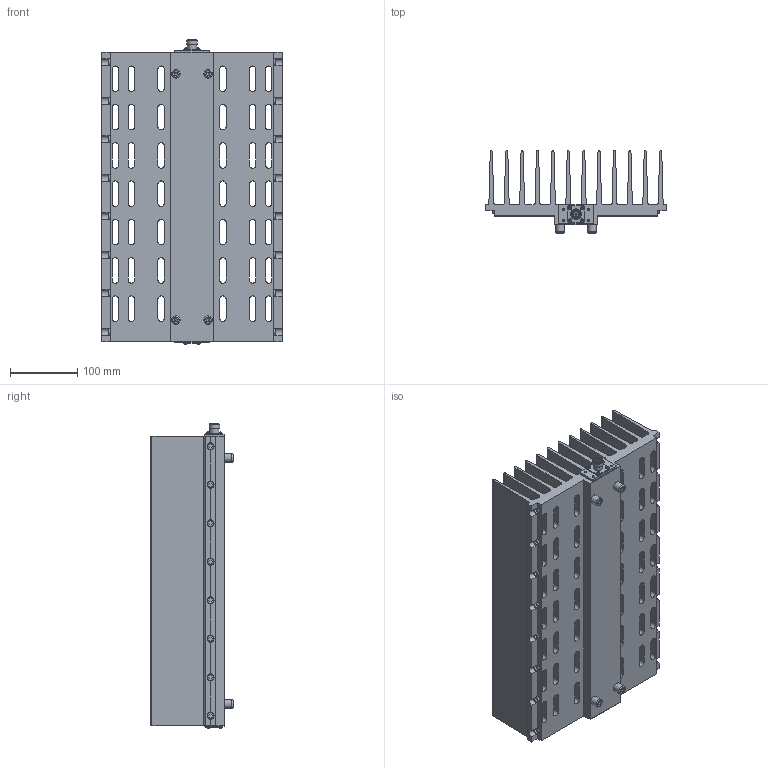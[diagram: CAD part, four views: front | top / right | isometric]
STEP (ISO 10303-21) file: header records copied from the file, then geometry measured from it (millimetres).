
FILE_DESCRIPTION(/* description */ ('Unknown'),/* implementation_level */ '2;1');
FILE_NAME(/* name */ '1000-WT-FN Rev D STEP',/* time_stamp */ '2022-10-26T07:42:37-04:00',/* author */ ('Unknown'),/* organization */ ('Unknown'),/* preprocessor_version */ 'ST-DEVELOPER v18.102',/* originating_system */ 'Solid Edge',/* authorisation */ 'Unknown');
FILE_SCHEMA (('AUTOMOTIVE_DESIGN {1 0 10303 214 3 1 1}'));
Length unit declared in the file: millimetre
Products named in the file (1): 1000-WT-FN
Bounding box: 267.72 x 121.92 x 452.47 mm (x, y, z)
Volume: 4047440 mm3; surface area: 1100609.2 mm2
Topology: 1 solids, 1 shells, 744 faces, 2126 edges, 1412 vertices
Faces by surface type: plane 528, cylinder 196, sphere 8, torus 6, cone 6
Full cylindrical faces by diameter (mm): 3.302 x8, 3.454 x8, 4.976 x4, 8.128 x1, 9.449 x16, 10.312 x16, 12.7 x4, 13.462 x2, 15.875 x1
Entity records: 29038 total; most frequent: CARTESIAN_POINT 4399, ORIENTED_EDGE 4004, DIRECTION 3992, EDGE_CURVE 2002, VERTEX_POINT 1372, LINE 1334, VECTOR 1334, AXIS2_PLACEMENT_3D 1329
